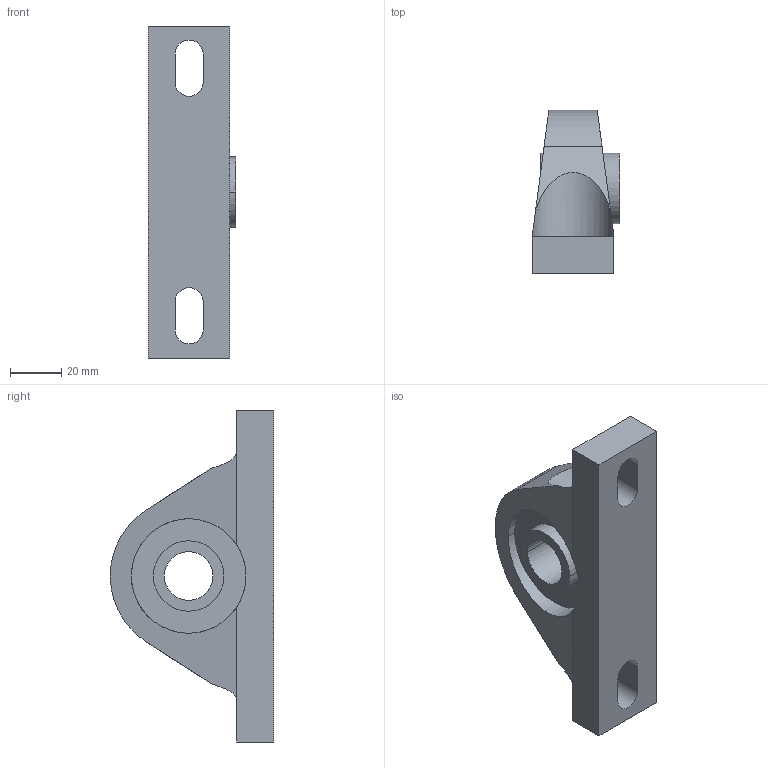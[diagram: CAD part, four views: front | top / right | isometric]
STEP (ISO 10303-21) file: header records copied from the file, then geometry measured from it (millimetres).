
FILE_DESCRIPTION(('SolidDesigner STEP Export'),'2;1');
FILE_NAME('Stehlager_RASEY_3_4_Zoll.stp','2002-07-16T11:13:19',(''),(''),'SolidDesigner STEP processor Version: 9.0 (March 2001)for AP214(CD)(Solid Model)','CoCreate SolidDesigner: 11.00 12-Dec-2001(C) CoCreate Software GmbH','');
FILE_SCHEMA(('AUTOMOTIVE_DESIGN_CC2 {1 2 10303 214 -1 1 5 1}'));
Length unit declared in the file: millimetre
Products named in the file (1): Stehlager_RASEY_3_4_Zoll
Bounding box: 34.3 x 63.99 x 130 mm (x, y, z)
Volume: 110263.4 mm3; surface area: 25956.8 mm2
Topology: 1 solids, 1 shells, 36 faces, 92 edges, 60 vertices
Faces by surface type: plane 19, cylinder 17
Entity records: 1037 total; most frequent: ORIENTED_EDGE 184, CARTESIAN_POINT 168, DIRECTION 168, EDGE_CURVE 92, AXIS2_PLACEMENT_3D 60, VERTEX_POINT 60, VECTOR 48, LINE 48
